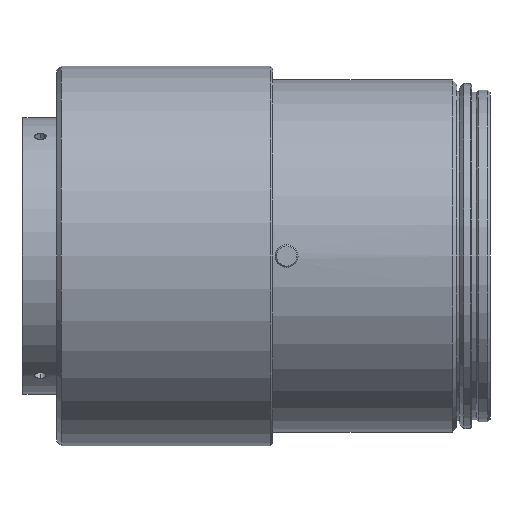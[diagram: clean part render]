
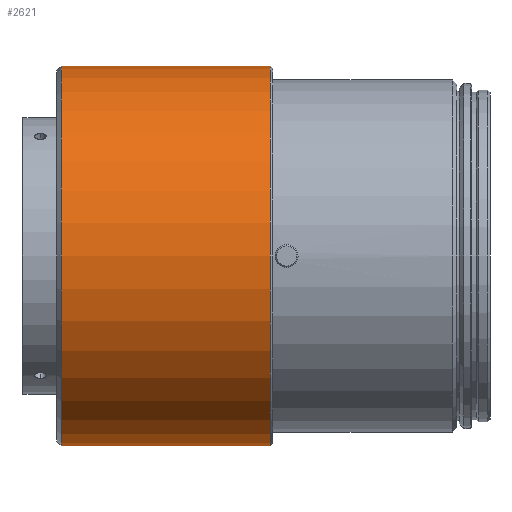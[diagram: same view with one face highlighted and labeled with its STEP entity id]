
A CAD part, front view. The second image highlights one B-rep face of the part: STEP entity #2621.
In plain terms, the highlighted cylindrical face has radius 41.25 mm (diameter 82.5 mm), a partial arc.
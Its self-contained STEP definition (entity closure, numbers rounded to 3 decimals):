
#34 = VERTEX_POINT ( 'NONE', #2723 ) ;
#162 = VERTEX_POINT ( 'NONE', #1487 ) ;
#212 = AXIS2_PLACEMENT_3D ( 'NONE', #2457, #1116, #2685 ) ;
#345 = VERTEX_POINT ( 'NONE', #2584 ) ;
#445 = DIRECTION ( 'NONE',  ( -1., 0., 0. ) ) ;
#491 = LINE ( 'NONE', #887, #1753 ) ;
#640 = EDGE_CURVE ( 'NONE', #162, #34, #491, .T. ) ;
#648 = CYLINDRICAL_SURFACE ( 'NONE', #967, 41.25 ) ;
#667 = DIRECTION ( 'NONE',  ( 0., 0., 1. ) ) ;
#675 = DIRECTION ( 'NONE',  ( -1., 0., 0. ) ) ;
#688 = DIRECTION ( 'NONE',  ( -1., 0., 0. ) ) ;
#810 = LINE ( 'NONE', #2778, #2010 ) ;
#887 = CARTESIAN_POINT ( 'NONE',  ( -103.7, 0., -41.25 ) ) ;
#967 = AXIS2_PLACEMENT_3D ( 'NONE', #2243, #445, #667 ) ;
#983 = ORIENTED_EDGE ( 'NONE', *, *, #2075, .T. ) ;
#1009 = VERTEX_POINT ( 'NONE', #1798 ) ;
#1116 = DIRECTION ( 'NONE',  ( -1., 0., 0. ) ) ;
#1315 = CIRCLE ( 'NONE', #212, 41.25 ) ;
#1384 = ORIENTED_EDGE ( 'NONE', *, *, #2740, .F. ) ;
#1422 = EDGE_LOOP ( 'NONE', ( #1592, #2204, #983, #1384 ) ) ;
#1446 = DIRECTION ( 'NONE',  ( -1., 0., 0. ) ) ;
#1487 = CARTESIAN_POINT ( 'NONE',  ( -47.7, 0., -41.25 ) ) ;
#1592 = ORIENTED_EDGE ( 'NONE', *, *, #640, .F. ) ;
#1753 = VECTOR ( 'NONE', #688, 1000. ) ;
#1798 = CARTESIAN_POINT ( 'NONE',  ( -93.2, 0., 41.25 ) ) ;
#1859 = FACE_OUTER_BOUND ( 'NONE', #1422, .T. ) ;
#2010 = VECTOR ( 'NONE', #1446, 1000. ) ;
#2022 = CARTESIAN_POINT ( 'NONE',  ( -93.2, 0., 0. ) ) ;
#2075 = EDGE_CURVE ( 'NONE', #345, #1009, #810, .T. ) ;
#2170 = AXIS2_PLACEMENT_3D ( 'NONE', #2022, #675, #2253 ) ;
#2204 = ORIENTED_EDGE ( 'NONE', *, *, #2610, .T. ) ;
#2239 = CIRCLE ( 'NONE', #2170, 41.25 ) ;
#2243 = CARTESIAN_POINT ( 'NONE',  ( -103.7, 0., 0. ) ) ;
#2253 = DIRECTION ( 'NONE',  ( 0., 0., 1. ) ) ;
#2457 = CARTESIAN_POINT ( 'NONE',  ( -47.7, 0., 0. ) ) ;
#2584 = CARTESIAN_POINT ( 'NONE',  ( -47.7, 0., 41.25 ) ) ;
#2610 = EDGE_CURVE ( 'NONE', #162, #345, #1315, .T. ) ;
#2621 = ADVANCED_FACE ( 'NONE', ( #1859 ), #648, .T. ) ;
#2685 = DIRECTION ( 'NONE',  ( 0., 0., 1. ) ) ;
#2723 = CARTESIAN_POINT ( 'NONE',  ( -93.2, 0., -41.25 ) ) ;
#2740 = EDGE_CURVE ( 'NONE', #34, #1009, #2239, .T. ) ;
#2778 = CARTESIAN_POINT ( 'NONE',  ( -103.7, 0., 41.25 ) ) ;
